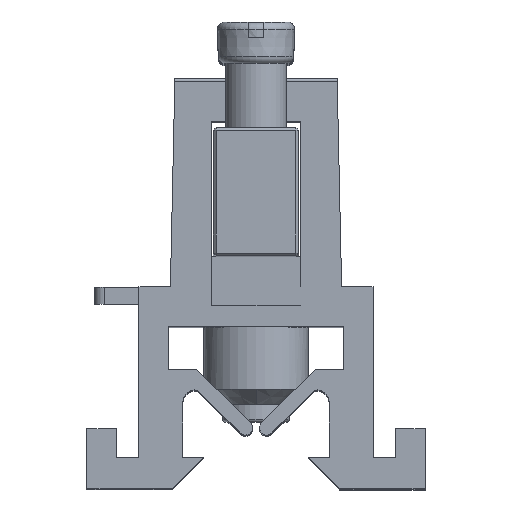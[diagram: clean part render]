
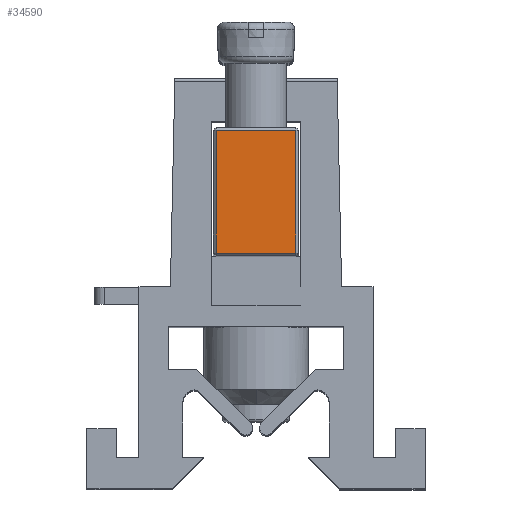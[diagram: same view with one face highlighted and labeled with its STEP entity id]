
A CAD part, top view. The second image highlights one B-rep face of the part: STEP entity #34590.
In plain terms, the highlighted planar face has unit normal (0, 0, 1).
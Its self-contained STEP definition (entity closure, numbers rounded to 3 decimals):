
#24168 = VECTOR ( 'NONE', #24278, 1000. ) ;
#24169 = CARTESIAN_POINT ( 'NONE',  ( 3., -4.3, 52.3 ) ) ;
#24170 = LINE ( 'NONE', #24169, #24168 ) ;
#24171 = CARTESIAN_POINT ( 'NONE',  ( -2.8, -4.3, 52.3 ) ) ;
#24268 = CARTESIAN_POINT ( 'NONE',  ( 2.8, 4.3, 52.3 ) ) ;
#24269 = DIRECTION ( 'NONE',  ( 0., 1., 0. ) ) ;
#24270 = VECTOR ( 'NONE', #24269, 1000. ) ;
#24272 = CARTESIAN_POINT ( 'NONE',  ( 2.8, 4.5, 52.3 ) ) ;
#24273 = LINE ( 'NONE', #24272, #24270 ) ;
#24277 = CARTESIAN_POINT ( 'NONE',  ( 2.8, -4.3, 52.3 ) ) ;
#24278 = DIRECTION ( 'NONE',  ( 1., 0., 0. ) ) ;
#24493 = DIRECTION ( 'NONE',  ( -1., 0., 0. ) ) ;
#24494 = VECTOR ( 'NONE', #24493, 1000. ) ;
#24495 = CARTESIAN_POINT ( 'NONE',  ( -3., 4.3, 52.3 ) ) ;
#24496 = LINE ( 'NONE', #24495, #24494 ) ;
#24537 = FACE_OUTER_BOUND ( 'NONE', #34591, .T. ) ;
#24608 = CARTESIAN_POINT ( 'NONE',  ( -2.8, 4.3, 52.3 ) ) ;
#24610 = DIRECTION ( 'NONE',  ( 0., -1., 0. ) ) ;
#24612 = VECTOR ( 'NONE', #24610, 1000. ) ;
#24615 = CARTESIAN_POINT ( 'NONE',  ( -2.8, -4.5, 52.3 ) ) ;
#24616 = LINE ( 'NONE', #24615, #24612 ) ;
#24618 = DIRECTION ( 'NONE',  ( 1., 0., 0. ) ) ;
#24619 = DIRECTION ( 'NONE',  ( 0., 0., 1. ) ) ;
#24620 = CARTESIAN_POINT ( 'NONE',  ( -3., -4.5, 52.3 ) ) ;
#24622 = AXIS2_PLACEMENT_3D ( 'NONE', #24620, #24619, #24618 ) ;
#24623 = PLANE ( 'NONE',  #24622 ) ;
#34514 = VERTEX_POINT ( 'NONE', #24171 ) ;
#34515 = ORIENTED_EDGE ( 'NONE', *, *, #34516, .T. ) ;
#34516 = EDGE_CURVE ( 'NONE', #34514, #34517, #24170, .T. ) ;
#34517 = VERTEX_POINT ( 'NONE', #24277 ) ;
#34518 = ORIENTED_EDGE ( 'NONE', *, *, #34519, .T. ) ;
#34519 = EDGE_CURVE ( 'NONE', #34517, #34520, #24273, .T. ) ;
#34520 = VERTEX_POINT ( 'NONE', #24268 ) ;
#34572 = ORIENTED_EDGE ( 'NONE', *, *, #34573, .T. ) ;
#34573 = EDGE_CURVE ( 'NONE', #34520, #34594, #24496, .T. ) ;
#34590 = ADVANCED_FACE ( 'NONE', ( #24537 ), #24623, .T. ) ;
#34591 = EDGE_LOOP ( 'NONE', ( #34592, #34515, #34518, #34572 ) ) ;
#34592 = ORIENTED_EDGE ( 'NONE', *, *, #34593, .T. ) ;
#34593 = EDGE_CURVE ( 'NONE', #34594, #34514, #24616, .T. ) ;
#34594 = VERTEX_POINT ( 'NONE', #24608 ) ;
